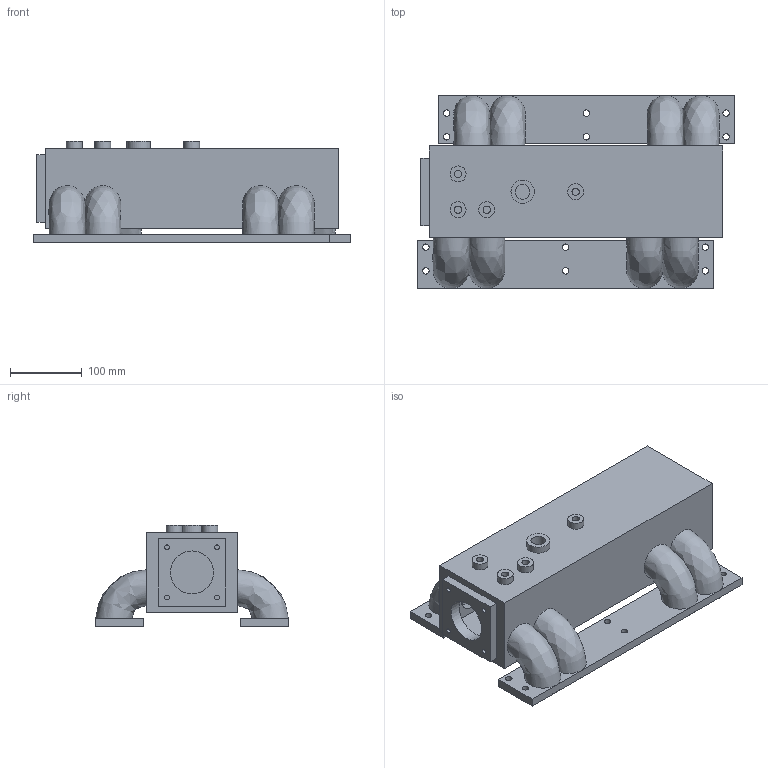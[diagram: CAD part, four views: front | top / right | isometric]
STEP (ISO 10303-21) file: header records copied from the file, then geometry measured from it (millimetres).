
FILE_DESCRIPTION(('Open CASCADE Model'),'2;1');
FILE_NAME('Open CASCADE Shape Model','2026-09-28T12:24:42',('Author'),( 'Open CASCADE'),'Open CASCADE STEP processor 8.0','build123d', 'Unknown');
FILE_SCHEMA(('AUTOMOTIVE_DESIGN { 1 0 10303 214 1 1 1 1 }'));
Length unit declared in the file: millimetre
Products named in the file (1): SOLID
Bounding box: 443 x 270 x 141.91 mm (x, y, z)
Volume: 1724872.8 mm3; surface area: 694547.1 mm2
Topology: 1 solids, 1 shells, 89 faces, 217 edges, 140 vertices
Faces by surface type: plane 42, cylinder 27, bspline 20
Full cylindrical faces by diameter (mm): 6.8 x4, 9 x12, 10.2 x4, 20.4 x1, 22.2 x4, 32.4 x1, 60 x1
Entity records: 28317 total; most frequent: CARTESIAN_POINT 24223, DIRECTION 628, ORIENTED_EDGE 426, PCURVE 418, DEFINITIONAL_REPRESENTATION 418, LINE 331, VECTOR 331, EDGE_CURVE 209
